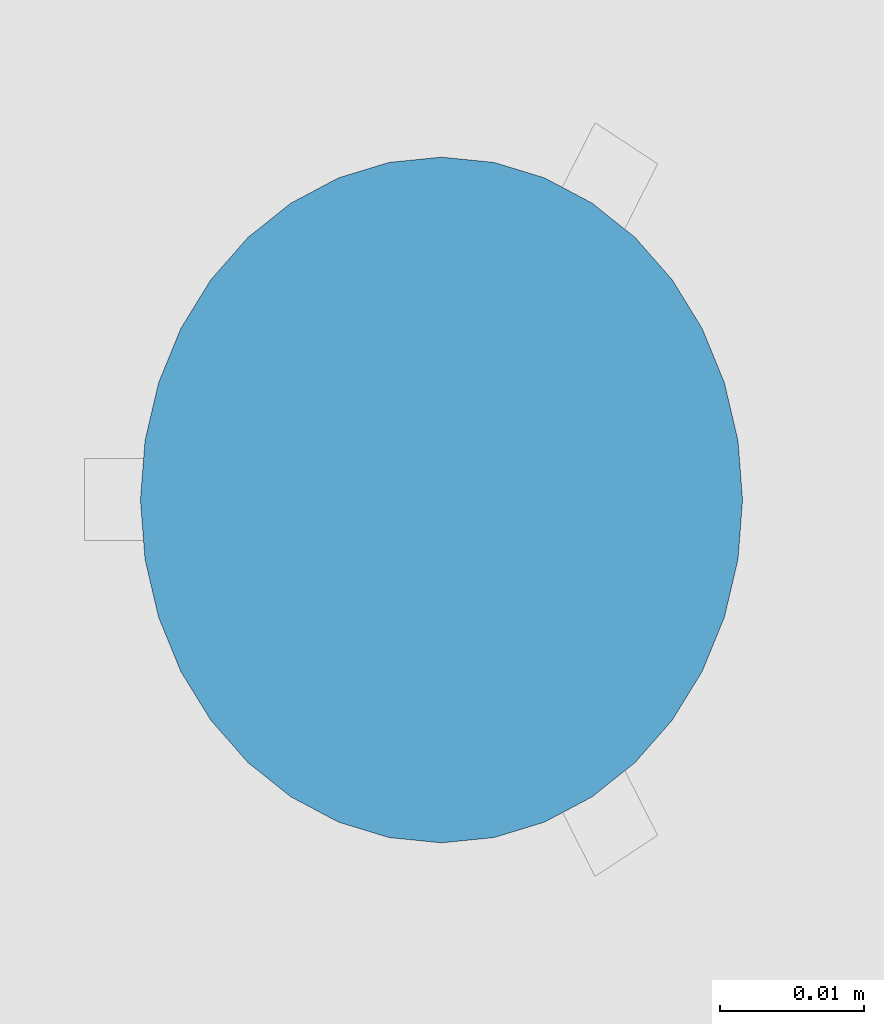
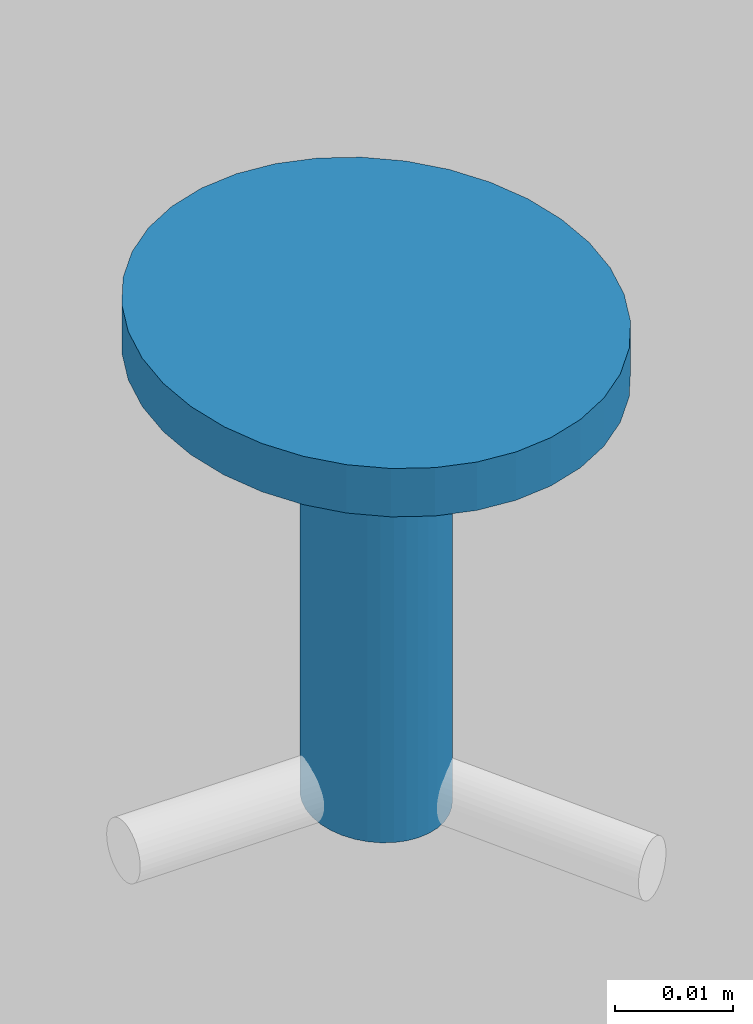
# One storey, part 365 of 788: 1 building element part, 1 element without a shape of its own.
"""IFC2X3 building model written with IfcOpenShell, lengths in millimetres."""

import ifcopenshell
import ifcopenshell.guid

model = None  # the IFC model being written
_history = None  # IfcOwnerHistory: only IFC2X3 demands one
_inside = {}  # id of a spatial element -> (the spatial element, [elements in it])
_under = {}  # id of a project, library or spatial element -> (it, [spatial elements below it])
_declared = {}  # id of a project -> (the project, [libraries it declares])
_typed = {}  # id of a type object -> (the type object, [elements of that type])
_made_of = {}  # id of a material, layer set ... -> (it, [elements and type objects made of it])


def new_model(schema):
    """Start an empty IFC model of exactly this schema.

    Asked for "IFC4X3", IfcOpenShell would pick the latest addendum, in which some entities
    have other attributes; the version numbers below select the first issue.
    IFC2X3 requires an IfcOwnerHistory on every rooted entity: one is made here for all.
    """
    global model, _history
    if schema == "IFC4X3":
        model = ifcopenshell.file(schema_version=(4, 3, 0, 0))
    else:
        model = ifcopenshell.file(schema=schema)
    _inside.clear()
    _under.clear()
    _declared.clear()
    _typed.clear()
    _made_of.clear()
    _history = None
    if model.schema == "IFC2X3":
        org = make("IfcOrganization", Name="unknown")
        user = make(
            "IfcPersonAndOrganization",
            ThePerson=make("IfcPerson", FamilyName="unknown"),
            TheOrganization=org,
        )
        app = make(
            "IfcApplication",
            ApplicationDeveloper=org,
            Version="unknown",
            ApplicationFullName="unknown",
            ApplicationIdentifier="unknown",
        )
        _history = make(
            "IfcOwnerHistory",
            OwningUser=user,
            OwningApplication=app,
            ChangeAction="ADDED",
            CreationDate=0,
        )
    return model


def make(cls, **values):
    """One entity of the class cls with the attributes given. An attribute that is None is left unset."""
    return model.create_entity(
        cls, **{name: value for name, value in values.items() if value is not None}
    )


def entity(cls, *values):
    """Any entity or typed value of the class cls, its attributes in the order of the schema. None: left unset."""
    e = model.create_entity(cls)
    for i, value in enumerate(values):
        if value is not None:
            e[i] = value
    return e


def rooted(cls, **values):
    """An entity with a GlobalId (a new one), such as an element, a storey or a relation."""
    return make(cls, GlobalId=ifcopenshell.guid.new(), OwnerHistory=_history, **values)


def si_unit(unit_type, name, prefix=None):
    """IfcSIUnit, for example si_unit("LENGTHUNIT", "METRE", prefix="MILLI")."""
    return make("IfcSIUnit", UnitType=unit_type, Prefix=prefix, Name=name)


def converted_unit(unit_type, name, factor, base, dimensions=None, offset=None):
    """IfcConversionBasedUnit, such as the inch: factor (a typed value) times the base unit."""
    return make(
        "IfcConversionBasedUnit"
        if offset is None
        else "IfcConversionBasedUnitWithOffset",
        ConversionOffset=offset,
        Dimensions=None
        if dimensions is None
        else entity("IfcDimensionalExponents", *dimensions),
        UnitType=unit_type,
        Name=name,
        ConversionFactor=make(
            "IfcMeasureWithUnit", ValueComponent=factor, UnitComponent=base
        ),
    )


def derived_unit(unit_type, elements):
    """IfcDerivedUnit: a product of units, each with its exponent."""
    return make(
        "IfcDerivedUnit",
        Elements=[
            make("IfcDerivedUnitElement", Unit=unit, Exponent=power)
            for unit, power in elements
        ],
        UnitType=unit_type,
    )


def money_unit(currency):
    """IfcMonetaryUnit."""
    return make("IfcMonetaryUnit", Currency=currency)


def assignment(units):
    """IfcUnitAssignment: the units of a project."""
    return None if units is None else make("IfcUnitAssignment", Units=units)


def point(xyz):
    """IfcCartesianPoint."""
    return None if xyz is None else make("IfcCartesianPoint", Coordinates=xyz)


def direction(xyz):
    """IfcDirection."""
    return None if xyz is None else make("IfcDirection", DirectionRatios=xyz)


def frame(location, z_axis=None, x_axis=None):
    """IfcAxis2Placement3D, a coordinate frame: its origin and axes. An axis left out is left unset."""
    return make(
        "IfcAxis2Placement3D",
        Location=point(location),
        Axis=direction(z_axis),
        RefDirection=direction(x_axis),
    )


def origin_with_axes():
    """The frame at (0, 0, 0) with the z axis (0, 0, 1) and the x axis (1, 0, 0) written out."""
    return frame((0.0, 0.0, 0.0), z_axis=(0.0, 0.0, 1.0), x_axis=(1.0, 0.0, 0.0))


def place(relative_to, where):
    """IfcLocalPlacement: puts the frame where relative to a parent placement (None: the world)."""
    return make(
        "IfcLocalPlacement", PlacementRelTo=relative_to, RelativePlacement=where
    )


def context(
    kind, dimensions, precision=None, world=None, true_north=None, identifier=None
):
    """IfcGeometricRepresentationContext, for example the 3D "Model" context."""
    return make(
        "IfcGeometricRepresentationContext",
        ContextIdentifier=identifier,
        ContextType=kind,
        CoordinateSpaceDimension=dimensions,
        Precision=precision,
        WorldCoordinateSystem=world,
        TrueNorth=true_north,
    )


def subcontext(parent, identifier, kind, view, scale=None):
    """IfcGeometricRepresentationSubContext, for example "Body" below "Model"."""
    return make(
        "IfcGeometricRepresentationSubContext",
        ContextIdentifier=identifier,
        ContextType=kind,
        ParentContext=parent,
        TargetScale=scale,
        TargetView=view,
    )


def project(units=None, contexts=None):
    """IfcProject with its units and contexts."""
    return rooted(
        "IfcProject",
        Name="project",
        RepresentationContexts=contexts,
        UnitsInContext=assignment(units),
    )


def spatial(cls, under=None, at=None, **own):
    """A site, building, storey or space (cls), placed at a placement, below another one or the project."""
    s = rooted(cls, ObjectPlacement=at, **own)
    if under is not None:
        _under.setdefault(under.id(), (under, []))[1].append(s)
    return s


def faces_of(points, faces, orient=None, outer=None):
    """IfcFace entities. A face is a list of loops; a loop is a list of indices into points, from 0.

    orient and outer hold one flag for each loop. By default every Orientation is true, the
    first loop of a face is its IfcFaceOuterBound and the others are IfcFaceBound.
    """
    made = []
    for i, loops in enumerate(faces):
        bounds = []
        for j, loop in enumerate(loops):
            is_outer = j == 0 if outer is None else outer[i][j]
            bounds.append(
                make(
                    "IfcFaceOuterBound" if is_outer else "IfcFaceBound",
                    Bound=make("IfcPolyLoop", Polygon=[points[k] for k in loop]),
                    Orientation=True if orient is None else orient[i][j],
                )
            )
        made.append(make("IfcFace", Bounds=bounds))
    return made


def faceted_brep(points, faces, orient=None, outer=None, voids=None):
    """IfcFacetedBrep: a solid bounded by flat faces; with voids (closed shells), ...WithVoids."""
    shared = [point(p) for p in points]
    hull = make("IfcClosedShell", CfsFaces=faces_of(shared, faces, orient, outer))
    if voids is None:
        return make("IfcFacetedBrep", Outer=hull)
    return make(
        "IfcFacetedBrepWithVoids",
        Outer=hull,
        Voids=[
            make(cls, CfsFaces=faces_of(shared, fs, o, b)) for cls, fs, o, b in voids
        ],
    )


def shape(context_of_items, identifier, shape_type, items):
    """IfcShapeRepresentation: the items that make up one representation, for example the "Body"."""
    return make(
        "IfcShapeRepresentation",
        ContextOfItems=context_of_items,
        RepresentationIdentifier=identifier,
        RepresentationType=shape_type,
        Items=items,
    )


def source(mapping_origin, context_of_items, identifier, shape_type, items):
    """IfcRepresentationMap: a shape defined once, which mapped items show again and again."""
    return make(
        "IfcRepresentationMap",
        MappingOrigin=mapping_origin,
        MappedRepresentation=shape(context_of_items, identifier, shape_type, items),
    )


def transform(
    local_origin,
    x_axis=None,
    y_axis=None,
    z_axis=None,
    scale=None,
    scale2=None,
    scale3=None,
    uniform=True,
):
    """IfcCartesianTransformationOperator3D, or its non-uniform kind. x_axis, y_axis, z_axis: its Axis1, 2, 3."""
    if uniform:
        return make(
            "IfcCartesianTransformationOperator3D",
            Axis1=direction(x_axis),
            Axis2=direction(y_axis),
            LocalOrigin=point(local_origin),
            Scale=scale,
            Axis3=direction(z_axis),
        )
    return make(
        "IfcCartesianTransformationOperator3DnonUniform",
        Axis1=direction(x_axis),
        Axis2=direction(y_axis),
        LocalOrigin=point(local_origin),
        Scale=scale,
        Axis3=direction(z_axis),
        Scale2=scale2,
        Scale3=scale3,
    )


def mapped(mapping_source, mapping_target):
    """IfcMappedItem: shows the shape of a source again, moved by a transform."""
    return make(
        "IfcMappedItem", MappingSource=mapping_source, MappingTarget=mapping_target
    )


def material(Name=None, Category=None):
    """IfcMaterial."""
    return make("IfcMaterial", Name=Name, Category=Category)


def made_of(thing, what):
    """Note that an element or type object is made of a material, layer set ...; save() writes the relation."""
    if what is not None:
        _made_of.setdefault(what.id(), (what, []))[1].append(thing)
    return thing


def type_object(cls, material=None, **own):
    """A type object (cls), such as IfcWallType, which elements share."""
    return made_of(rooted(cls, **own), material)


def element(
    cls,
    number,
    at=None,
    inside=None,
    cuts=None,
    type_object=None,
    material=None,
    context=None,
    identifier="Body",
    shape_type=None,
    held_by="IfcProductDefinitionShape",
    body=None,
    shapes=None,
    **own,
):
    """One element of the class cls, such as IfcWall. Its Tag is "e" and its number.

    at: its placement. inside: the storey or other place that contains it. cuts: it is an
    opening in that element (IfcRelVoidsElement). A single representation is given by context,
    identifier, shape_type and body (its items); several are given by shapes. held_by: the class
    of the entity that holds the representations. save() writes the other relations.
    """
    e = rooted(cls, Tag="e%d" % number, ObjectPlacement=at, **own)
    if body is not None:
        shapes = [shape(context, identifier, shape_type, body)]
    if shapes is not None:
        e.Representation = make(held_by, Representations=shapes)
    if inside is not None:
        _inside.setdefault(inside.id(), (inside, []))[1].append(e)
    if cuts is not None:
        rooted(
            "IfcRelVoidsElement", RelatingBuildingElement=cuts, RelatedOpeningElement=e
        )
    if type_object is not None:
        _typed.setdefault(type_object.id(), (type_object, []))[1].append(e)
    return made_of(e, material)


def aggregate(whole, parts):
    """IfcRelAggregates: a whole, such as a stair, and the parts it consists of."""
    return rooted("IfcRelAggregates", RelatingObject=whole, RelatedObjects=parts)


def save(model, path):
    """Write the relations noted so far, then the file.

    IfcRelAggregates (storeys below a building ...), IfcRelContainedInSpatialStructure (elements
    in a storey), IfcRelDefinesByType, IfcRelAssociatesMaterial and IfcRelDeclares: one each for
    every whole, place, type object, material and project.
    """
    for whole, parts in _under.values():
        aggregate(whole, parts)
    for where, things in _inside.values():
        rooted(
            "IfcRelContainedInSpatialStructure",
            RelatedElements=things,
            RelatingStructure=where,
        )
    for kind, things in _typed.values():
        rooted("IfcRelDefinesByType", RelatedObjects=things, RelatingType=kind)
    for what, things in _made_of.values():
        rooted("IfcRelAssociatesMaterial", RelatedObjects=things, RelatingMaterial=what)
    for by, libraries in _declared.values():
        rooted("IfcRelDeclares", RelatingContext=by, RelatedDefinitions=libraries)
    model.write(path)


model = new_model("IFC2X3")

# Units and contexts
model_context = context("Model", 3, precision=0.01, world=origin_with_axes(), true_north=direction((0.0, 1.0)))
plan_context = context("Plan", 3, precision=0.01, world=origin_with_axes(), true_north=direction((0.0, 1.0)))
body_context = subcontext(model_context, "Body", "Model", "MODEL_VIEW")
ifc_project = project(units=[si_unit("LENGTHUNIT", "METRE", prefix="MILLI"), si_unit("AREAUNIT", "SQUARE_METRE"), si_unit("VOLUMEUNIT", "CUBIC_METRE"), converted_unit("PLANEANGLEUNIT", "DEGREE", entity("IfcPlaneAngleMeasure", 0.0174532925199), si_unit("PLANEANGLEUNIT", "RADIAN"), dimensions=[0, 0, 0, 0, 0, 0, 0]), money_unit("EUR"), converted_unit("TIMEUNIT", "Year", entity("IfcTimeMeasure", 31556926.0), si_unit("TIMEUNIT", "SECOND"), dimensions=[0, 0, 1, 0, 0, 0, 0]), si_unit("MASSUNIT", "GRAM", prefix="KILO"), si_unit("THERMODYNAMICTEMPERATUREUNIT", "DEGREE_CELSIUS"), si_unit("LUMINOUSINTENSITYUNIT", "LUMEN"), si_unit("ENERGYUNIT", "JOULE", prefix="MEGA"), derived_unit("THERMALCONDUCTANCEUNIT", [(si_unit("POWERUNIT", "WATT"), 1), (si_unit("LENGTHUNIT", "METRE"), -1), (si_unit("THERMODYNAMICTEMPERATUREUNIT", "KELVIN"), -1)]), derived_unit("SPECIFICHEATCAPACITYUNIT", [(si_unit("ENERGYUNIT", "JOULE"), 1), (si_unit("MASSUNIT", "GRAM", prefix="KILO"), -1), (si_unit("THERMODYNAMICTEMPERATUREUNIT", "KELVIN"), -1)]), derived_unit("MASSDENSITYUNIT", [(si_unit("MASSUNIT", "GRAM", prefix="KILO"), 1), (si_unit("VOLUMEUNIT", "CUBIC_METRE"), -1)])], contexts=[model_context, plan_context])

# Site, building, storey
site_placement = place(None, origin_with_axes())
site = spatial("IfcSite", under=ifc_project, at=site_placement, Name="Site", CompositionType="ELEMENT")
building_placement = place(site_placement, origin_with_axes())
building = spatial("IfcBuilding", under=site, at=building_placement, Name="Naam gebouw", CompositionType="ELEMENT")
storey_placement = place(building_placement, origin_with_axes())
storey = spatial("IfcBuildingStorey", under=building, at=storey_placement, Name="Begane grond", CompositionType="ELEMENT", Elevation=0.0)

# Proxy, building element part
building_element_proxy_type = type_object("IfcBuildingElementProxyType", Name="plafondhaak", PredefinedType="NOTDEFINED")
proxy_placement = place(storey_placement, frame((47869.4754367, 22823.5152393, 950.0), z_axis=(0.0, 0.0, 1.0), x_axis=(-1.0, 0.0, 0.0)))
proxy = element("IfcBuildingElementProxy", 1, at=proxy_placement, inside=storey, type_object=building_element_proxy_type, Name="garderobehaak")
ifc_material = material(Name="_Dichte arcering")
shared_shape = source(origin_with_axes(), body_context, "Body", "Brep", [
    faceted_brep([(-17.5871200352, 3.81461944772, 50.0), (-17.5871200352, 3.81461944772, 45.0), (-14.2952839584, 5.56266277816, 45.0), (-14.2952839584, 5.56266277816, 50.0), (-21.0954971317, 2.74408618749, 50.0), (-21.0954971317, 2.74408618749, 45.0), (-5.13338153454, 17.9967404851, 45.0), (-6.66838990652, 14.2480494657, 45.0), (-8.75169938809, 10.8598540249, 45.0), (-11.3200096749, 7.93510276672, 45.0), (-24.7138149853, 2.38359060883, 45.0), (-28.3321328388, 2.74408618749, 45.0), (-31.8405099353, 3.81461944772, 45.0), (-35.1323460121, 5.56266277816, 45.0), (-38.1076202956, 7.93510276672, 45.0), (-40.6759305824, 10.8598540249, 45.0), (-42.759240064, 14.2480494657, 45.0), (-44.294248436, 17.9967404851, 45.0), (-45.2343152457, 21.9920250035, 45.0), (-45.550877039, 26.1125083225, 45.0), (-45.2343152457, 30.2329916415, 45.0), (-44.294248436, 34.2282761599, 45.0), (-42.759240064, 37.9769671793, 45.0), (-40.6759305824, 41.3651626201, 45.0), (-38.1076202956, 44.2899138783, 45.0), (-35.1323460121, 46.6623538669, 45.0), (-31.8405099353, 48.4103971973, 45.0), (-28.3321328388, 49.4809304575, 45.0), (-24.7138149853, 49.8414260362, 45.0), (-21.0954971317, 49.4809304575, 45.0), (-17.5871200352, 48.4103971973, 45.0), (-14.2952839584, 46.6623538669, 45.0), (-11.3200096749, 44.2899138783, 45.0), (-8.75169938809, 41.3651626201, 45.0), (-6.66838990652, 37.9769671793, 45.0), (-5.13338153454, 34.2282761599, 45.0), (-4.19331472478, 30.2329916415, 45.0), (-3.87675293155, 26.1125083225, 45.0), (-4.19331472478, 21.9920250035, 45.0), (-24.7138149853, 18.9938330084, 45.0), (-23.6283196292, 19.101981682, 45.0), (-22.5758065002, 19.4231416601, 45.0), (-21.5882556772, 19.9475546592, 45.0), (-20.6956733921, 20.6592866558, 45.0), (-19.9251803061, 21.5367120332, 45.0), (-19.3001874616, 22.5531706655, 45.0), (-18.83968495, 23.6777779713, 45.0), (-18.5576649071, 24.8763633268, 45.0), (-18.4626963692, 26.1125083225, 45.0), (-18.5576649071, 27.3486533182, 45.0), (-18.83968495, 28.5472386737, 45.0), (-19.3001874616, 29.6718459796, 45.0), (-19.9251803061, 30.6883046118, 45.0), (-20.6956733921, 31.5657299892, 45.0), (-21.5882556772, 32.2774619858, 45.0), (-22.5758065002, 32.8018749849, 45.0), (-23.6283196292, 33.123034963, 45.0), (-24.7138149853, 33.2311836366, 45.0), (-25.7993103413, 33.123034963, 45.0), (-26.8518234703, 32.8018749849, 45.0), (-27.8393742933, 32.2774619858, 45.0), (-28.7319565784, 31.5657299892, 45.0), (-29.5024496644, 30.6883046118, 45.0), (-30.1274425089, 29.6718459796, 45.0), (-30.5879450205, 28.5472386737, 45.0), (-30.8699650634, 27.3486533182, 45.0), (-30.9649336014, 26.1125083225, 45.0), (-30.8699650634, 24.8763633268, 45.0), (-30.5879450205, 23.6777779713, 45.0), (-30.1274425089, 22.5531706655, 45.0), (-29.5024496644, 21.5367120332, 45.0), (-28.7319565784, 20.6592866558, 45.0), (-27.8393742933, 19.9475546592, 45.0), (-26.8518234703, 19.4231416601, 45.0), (-25.7993103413, 19.101981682, 45.0), (-11.3200096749, 7.93510276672, 50.0), (-8.75169938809, 10.8598540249, 50.0), (-6.66838990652, 14.2480494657, 50.0), (-5.13338153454, 17.9967404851, 50.0), (-4.19331472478, 21.9920250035, 50.0), (-3.87675293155, 26.1125083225, 50.0), (-4.19331472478, 30.2329916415, 50.0), (-5.13338153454, 34.2282761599, 50.0), (-6.66838990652, 37.9769671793, 50.0), (-8.75169938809, 41.3651626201, 50.0), (-11.3200096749, 44.2899138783, 50.0), (-14.2952839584, 46.6623538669, 50.0), (-17.5871200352, 48.4103971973, 50.0), (-21.0954971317, 49.4809304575, 50.0), (-24.7138149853, 49.8414260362, 50.0), (-28.3321328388, 49.4809304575, 50.0), (-31.8405099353, 48.4103971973, 50.0), (-35.1323460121, 46.6623538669, 50.0), (-38.1076202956, 44.2899138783, 50.0), (-40.6759305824, 41.3651626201, 50.0), (-42.759240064, 37.9769671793, 50.0), (-44.294248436, 34.2282761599, 50.0), (-45.2343152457, 30.2329916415, 50.0), (-45.550877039, 26.1125083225, 50.0), (-45.2343152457, 21.9920250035, 50.0), (-44.294248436, 17.9967404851, 50.0), (-42.759240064, 14.2480494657, 50.0), (-40.6759305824, 10.8598540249, 50.0), (-38.1076202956, 7.93510276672, 50.0), (-35.1323460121, 5.56266277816, 50.0), (-31.8405099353, 3.81461944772, 50.0), (-28.3321328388, 2.74408618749, 50.0), (-24.7138149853, 2.38359060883, 50.0), (-24.7138149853, 18.9938330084, 0.0), (-23.6283196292, 19.101981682, 0.0), (-22.5758065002, 19.4231416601, 0.0), (-21.5882556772, 19.9475546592, 0.0), (-20.6956733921, 20.6592866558, 0.0), (-19.9251803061, 21.5367120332, 0.0), (-19.3001874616, 22.5531706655, 0.0), (-18.83968495, 23.6777779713, 0.0), (-18.5576649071, 24.8763633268, 0.0), (-18.4626963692, 26.1125083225, 0.0), (-18.5576649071, 27.3486533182, 0.0), (-18.83968495, 28.5472386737, 0.0), (-19.3001874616, 29.6718459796, 0.0), (-19.9251803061, 30.6883046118, 0.0), (-20.6956733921, 31.5657299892, 0.0), (-21.5882556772, 32.2774619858, 0.0), (-22.5758065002, 32.8018749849, 0.0), (-23.6283196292, 33.123034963, 0.0), (-24.7138149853, 33.2311836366, 0.0), (-25.7993103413, 33.123034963, 0.0), (-26.8518234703, 32.8018749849, 0.0), (-27.8393742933, 32.2774619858, 0.0), (-28.7319565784, 31.5657299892, 0.0), (-29.5024496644, 30.6883046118, 0.0), (-30.1274425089, 29.6718459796, 0.0), (-30.5879450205, 28.5472386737, 0.0), (-30.8699650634, 27.3486533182, 0.0), (-30.9649336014, 26.1125083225, 0.0), (-30.8699650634, 24.8763633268, 0.0), (-30.5879450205, 23.6777779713, 0.0), (-30.1274425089, 22.5531706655, 0.0), (-29.5024496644, 21.5367120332, 0.0), (-28.7319565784, 20.6592866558, 0.0), (-27.8393742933, 19.9475546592, 0.0), (-26.8518234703, 19.4231416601, 0.0), (-25.7993103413, 19.101981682, 0.0)], [[[0, 1, 2, 3]], [[0, 4, 5, 1]], [[6, 7, 8, 9, 2, 1, 5, 10, 11, 12, 13, 14, 15, 16, 17, 18, 19, 20, 21, 22, 23, 24, 25, 26, 27, 28, 29, 30, 31, 32, 33, 34, 35, 36, 37, 38], [39, 40, 41, 42, 43, 44, 45, 46, 47, 48, 49, 50, 51, 52, 53, 54, 55, 56, 57, 58, 59, 60, 61, 62, 63, 64, 65, 66, 67, 68, 69, 70, 71, 72, 73, 74]], [[3, 2, 9, 75]], [[3, 75, 76, 77, 78, 79, 80, 81, 82, 83, 84, 85, 86, 87, 88, 89, 90, 91, 92, 93, 94, 95, 96, 97, 98, 99, 100, 101, 102, 103, 104, 105, 106, 107, 4, 0]], [[107, 10, 5, 4]], [[77, 7, 6, 78]], [[76, 8, 7, 77]], [[9, 8, 76, 75]], [[106, 11, 10, 107]], [[105, 12, 11, 106]], [[104, 13, 12, 105]], [[103, 14, 13, 104]], [[103, 102, 15, 14]], [[102, 101, 16, 15]], [[100, 17, 16, 101]], [[99, 18, 17, 100]], [[98, 19, 18, 99]], [[97, 20, 19, 98]], [[96, 21, 20, 97]], [[95, 22, 21, 96]], [[94, 23, 22, 95]], [[93, 24, 23, 94]], [[92, 25, 24, 93]], [[91, 26, 25, 92]], [[90, 27, 26, 91]], [[89, 28, 27, 90]], [[88, 29, 28, 89]], [[30, 29, 88, 87]], [[31, 30, 87, 86]], [[32, 31, 86, 85]], [[33, 32, 85, 84]], [[83, 34, 33, 84]], [[82, 35, 34, 83]], [[81, 36, 35, 82]], [[80, 37, 36, 81]], [[79, 38, 37, 80]], [[78, 6, 38, 79]], [[40, 39, 108, 109]], [[41, 40, 109, 110]], [[110, 111, 42, 41]], [[43, 42, 111, 112]], [[112, 113, 44, 43]], [[113, 114, 45, 44]], [[114, 115, 46, 45]], [[47, 46, 115, 116]], [[116, 117, 48, 47]], [[117, 118, 49, 48]], [[118, 119, 50, 49]], [[119, 120, 51, 50]], [[120, 121, 52, 51]], [[53, 52, 121, 122]], [[122, 123, 54, 53]], [[123, 124, 55, 54]], [[124, 125, 56, 55]], [[125, 126, 57, 56]], [[58, 57, 126, 127]], [[59, 58, 127, 128]], [[60, 59, 128, 129]], [[129, 130, 61, 60]], [[130, 131, 62, 61]], [[131, 132, 63, 62]], [[64, 63, 132, 133]], [[65, 64, 133, 134]], [[66, 65, 134, 135]], [[135, 136, 67, 66]], [[68, 67, 136, 137]], [[137, 138, 69, 68]], [[70, 69, 138, 139]], [[71, 70, 139, 140]], [[72, 71, 140, 141]], [[73, 72, 141, 142]], [[74, 73, 142, 143]], [[39, 74, 143, 108]], [[109, 108, 143, 142, 141, 140, 139, 138, 137, 136, 135, 134, 133, 132, 131, 130, 129, 128, 127, 126, 125, 124, 123, 122, 121, 120, 119, 118, 117, 116, 115, 114, 113, 112, 111, 110]]]),
])
building_element_part_placement = place(proxy_placement, origin_with_axes())
building_element_part = element("IfcBuildingElementPart", 2, at=building_element_part_placement, material=ifc_material, Name="_Dichte arcering", context=body_context, shape_type="MappedRepresentation", body=[
    mapped(shared_shape, transform((0.0, 0.0, 0.0))),
])
aggregate(proxy, [building_element_part])

save(model, "model.ifc")
